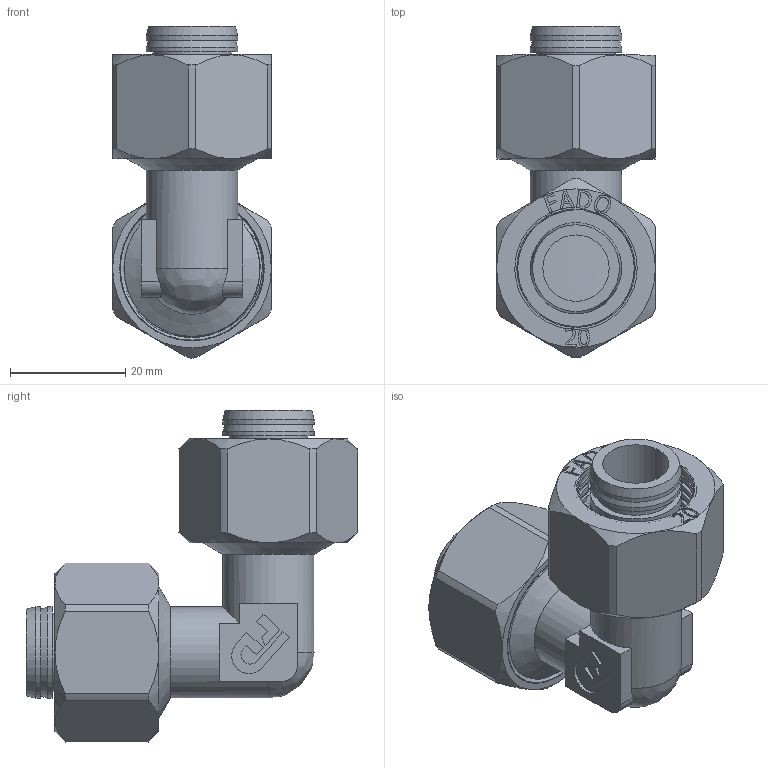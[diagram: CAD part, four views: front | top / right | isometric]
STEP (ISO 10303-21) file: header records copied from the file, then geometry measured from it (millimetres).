
FILE_DESCRIPTION(/* description */ (''),/* implementation_level */ '2;1');
FILE_NAME(/* name */ 'C:\Users\Doom\Desktop\Фадотех\Обжим\RFU02 20 30.03.2020\RFU02 20 30.03.2020.stp',/* time_stamp */ '2022-06-01T15:22:52+03:00',/* author */ ('Doom'),/* organization */ (''),/* preprocessor_version */ 'ST-DEVELOPER v18',/* originating_system */ 'Autodesk Inventor 2020',/* authorisation */ '');
FILE_SCHEMA (('AUTOMOTIVE_DESIGN { 1 0 10303 214 3 1 1 }'));
Length unit declared in the file: millimetre
Products named in the file (5): RFU02 20 30.03.2020; RFU02 20 30.03.2020_1; FADO MC Nut-20 15.02.2020; FADO MC Socket-20 15.02.2020; Olive 20 15.02.2020
Assembly tree (7 placements, depth 2):
  RFU02 20 30.03.2020
    RFU02 20 30.03.2020_1
    FADO MC Nut-20 15.02.2020  x2
    FADO MC Socket-20 15.02.2020  x2
    Olive 20 15.02.2020  x2
Bounding box: 27.5 x 57.47 x 57.5 mm (x, y, z)
Volume: 23279.7 mm3; surface area: 32761.1 mm2
Topology: 11 solids, 11 shells, 1025 faces, 2801 edges, 1877 vertices
Faces by surface type: bspline 514, plane 301, cylinder 154, cone 52, torus 4
Full cylindrical faces by diameter (mm): 11.5 x2, 12 x3, 13.531 x4, 14.5 x2, 15.8 x2, 15.802 x10, 17.391 x2, 17.5 x2, 18 x2, 20.5 x2, 22.776 x18, 23 x2, 23.517 x2, 24.1 x2, 25 x19
Entity records: 35119 total; most frequent: CARTESIAN_POINT 22246, ORIENTED_EDGE 3110, DIRECTION 1818, EDGE_CURVE 1555, VERTEX_POINT 1043, EDGE_LOOP 628, LINE 628, VECTOR 628
